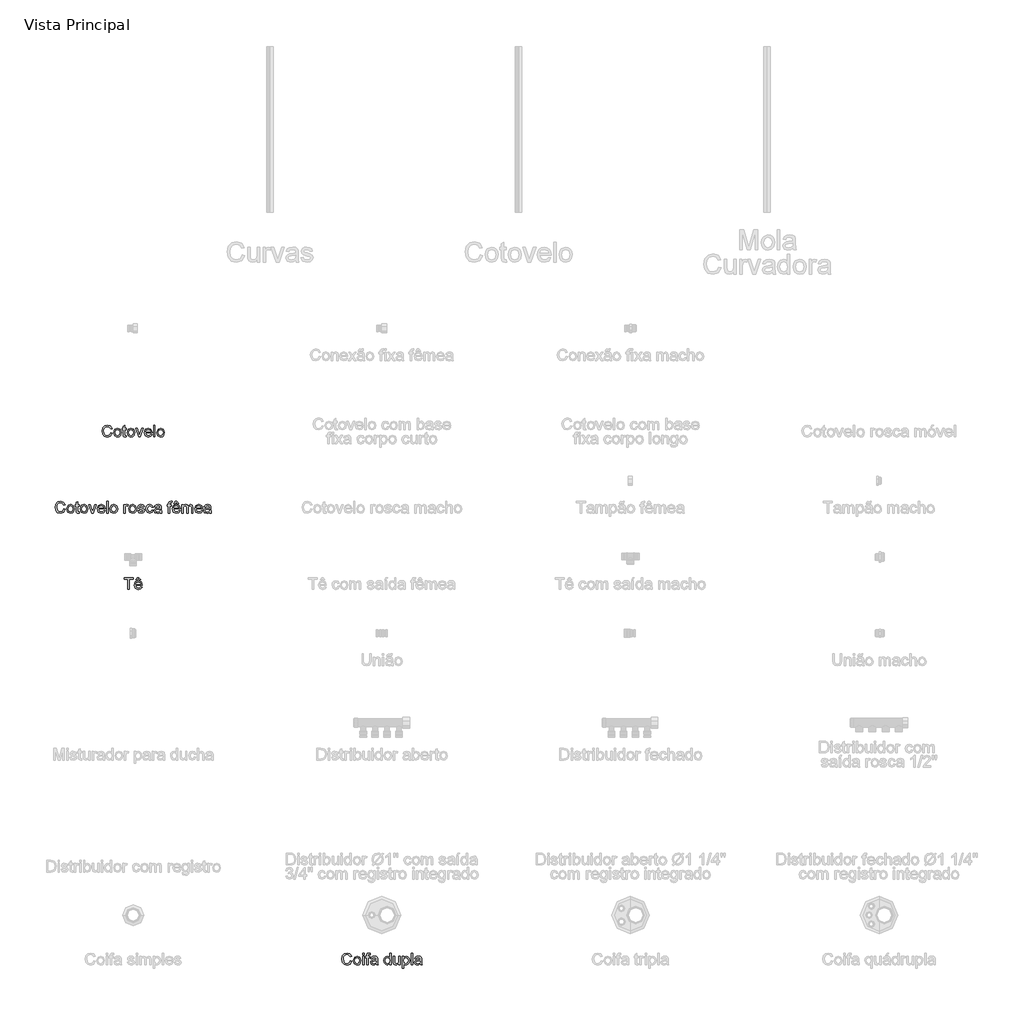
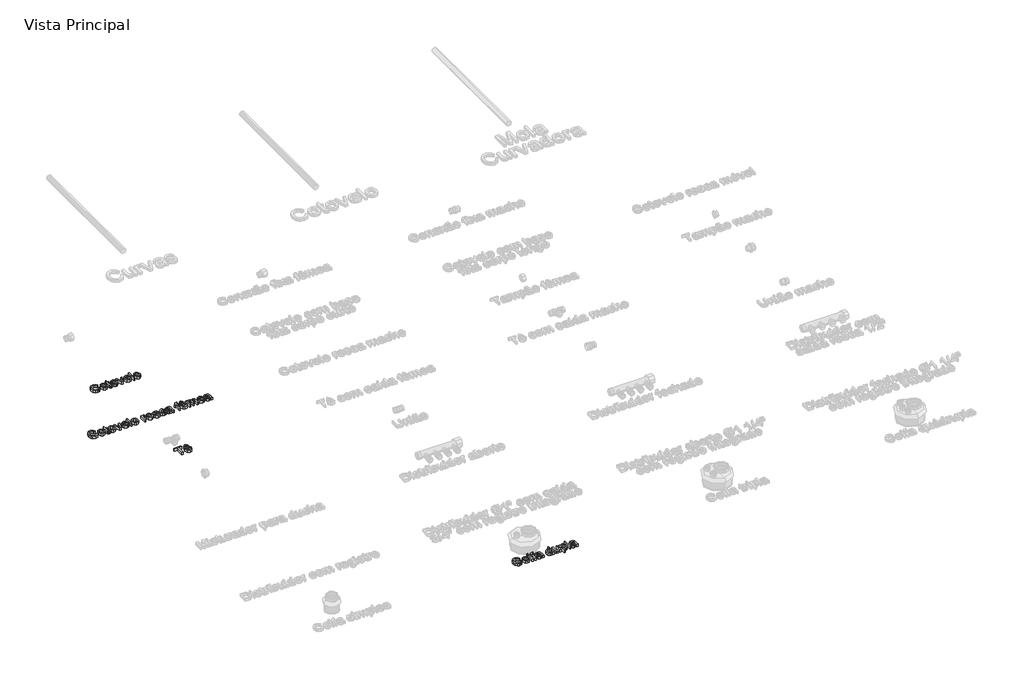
# One storey, part 4 of 12: 4 proxies.
"""IFC4 building model written with IfcOpenShell, lengths in millimetres."""

import ifcopenshell
import ifcopenshell.guid

model = None  # the IFC model being written
_history = None  # IfcOwnerHistory: only IFC2X3 demands one
_inside = {}  # id of a spatial element -> (the spatial element, [elements in it])
_under = {}  # id of a project, library or spatial element -> (it, [spatial elements below it])
_declared = {}  # id of a project -> (the project, [libraries it declares])
_typed = {}  # id of a type object -> (the type object, [elements of that type])
_made_of = {}  # id of a material, layer set ... -> (it, [elements and type objects made of it])


def new_model(schema):
    """Start an empty IFC model of exactly this schema.

    Asked for "IFC4X3", IfcOpenShell would pick the latest addendum, in which some entities
    have other attributes; the version numbers below select the first issue.
    IFC2X3 requires an IfcOwnerHistory on every rooted entity: one is made here for all.
    """
    global model, _history
    if schema == "IFC4X3":
        model = ifcopenshell.file(schema_version=(4, 3, 0, 0))
    else:
        model = ifcopenshell.file(schema=schema)
    _inside.clear()
    _under.clear()
    _declared.clear()
    _typed.clear()
    _made_of.clear()
    _history = None
    if model.schema == "IFC2X3":
        org = make("IfcOrganization", Name="unknown")
        user = make(
            "IfcPersonAndOrganization",
            ThePerson=make("IfcPerson", FamilyName="unknown"),
            TheOrganization=org,
        )
        app = make(
            "IfcApplication",
            ApplicationDeveloper=org,
            Version="unknown",
            ApplicationFullName="unknown",
            ApplicationIdentifier="unknown",
        )
        _history = make(
            "IfcOwnerHistory",
            OwningUser=user,
            OwningApplication=app,
            ChangeAction="ADDED",
            CreationDate=0,
        )
    return model


def make(cls, **values):
    """One entity of the class cls with the attributes given. An attribute that is None is left unset."""
    return model.create_entity(
        cls, **{name: value for name, value in values.items() if value is not None}
    )


def rooted(cls, **values):
    """An entity with a GlobalId (a new one), such as an element, a storey or a relation."""
    return make(cls, GlobalId=ifcopenshell.guid.new(), OwnerHistory=_history, **values)


def si_unit(unit_type, name, prefix=None):
    """IfcSIUnit, for example si_unit("LENGTHUNIT", "METRE", prefix="MILLI")."""
    return make("IfcSIUnit", UnitType=unit_type, Prefix=prefix, Name=name)


def assignment(units):
    """IfcUnitAssignment: the units of a project."""
    return None if units is None else make("IfcUnitAssignment", Units=units)


def point(xyz):
    """IfcCartesianPoint."""
    return None if xyz is None else make("IfcCartesianPoint", Coordinates=xyz)


def direction(xyz):
    """IfcDirection."""
    return None if xyz is None else make("IfcDirection", DirectionRatios=xyz)


def frame(location, z_axis=None, x_axis=None):
    """IfcAxis2Placement3D, a coordinate frame: its origin and axes. An axis left out is left unset."""
    return make(
        "IfcAxis2Placement3D",
        Location=point(location),
        Axis=direction(z_axis),
        RefDirection=direction(x_axis),
    )


def origin():
    """The frame at (0, 0, 0) with its axes left unset."""
    return frame((0.0, 0.0, 0.0))


def origin_with_axes():
    """The frame at (0, 0, 0) with the z axis (0, 0, 1) and the x axis (1, 0, 0) written out."""
    return frame((0.0, 0.0, 0.0), z_axis=(0.0, 0.0, 1.0), x_axis=(1.0, 0.0, 0.0))


def place(relative_to, where):
    """IfcLocalPlacement: puts the frame where relative to a parent placement (None: the world)."""
    return make(
        "IfcLocalPlacement", PlacementRelTo=relative_to, RelativePlacement=where
    )


def context(
    kind, dimensions, precision=None, world=None, true_north=None, identifier=None
):
    """IfcGeometricRepresentationContext, for example the 3D "Model" context."""
    return make(
        "IfcGeometricRepresentationContext",
        ContextIdentifier=identifier,
        ContextType=kind,
        CoordinateSpaceDimension=dimensions,
        Precision=precision,
        WorldCoordinateSystem=world,
        TrueNorth=true_north,
    )


def project(units=None, contexts=None):
    """IfcProject with its units and contexts."""
    return rooted(
        "IfcProject",
        Name="project",
        RepresentationContexts=contexts,
        UnitsInContext=assignment(units),
    )


def spatial(cls, under=None, at=None, **own):
    """A site, building, storey or space (cls), placed at a placement, below another one or the project."""
    s = rooted(cls, ObjectPlacement=at, **own)
    if under is not None:
        _under.setdefault(under.id(), (under, []))[1].append(s)
    return s


def polyline(points):
    """IfcPolyline through the points."""
    return make("IfcPolyline", Points=[point(p) for p in points])


def outline(outer, holes=None, kind="AREA"):
    """IfcArbitraryClosedProfileDef: a profile drawn as a closed curve; with holes, ...WithVoids."""
    if holes is None:
        return make("IfcArbitraryClosedProfileDef", ProfileType=kind, OuterCurve=outer)
    return make(
        "IfcArbitraryProfileDefWithVoids",
        ProfileType=kind,
        OuterCurve=outer,
        InnerCurves=holes,
    )


def extrude(swept, where, along, depth):
    """IfcExtrudedAreaSolid: the profile swept, set in the frame where, extruded along a direction by depth."""
    return make(
        "IfcExtrudedAreaSolid",
        SweptArea=swept,
        Position=where,
        ExtrudedDirection=direction(along),
        Depth=depth,
    )


def shape(context_of_items, identifier, shape_type, items):
    """IfcShapeRepresentation: the items that make up one representation, for example the "Body"."""
    return make(
        "IfcShapeRepresentation",
        ContextOfItems=context_of_items,
        RepresentationIdentifier=identifier,
        RepresentationType=shape_type,
        Items=items,
    )


def made_of(thing, what):
    """Note that an element or type object is made of a material, layer set ...; save() writes the relation."""
    if what is not None:
        _made_of.setdefault(what.id(), (what, []))[1].append(thing)
    return thing


def element(
    cls,
    number,
    at=None,
    inside=None,
    cuts=None,
    type_object=None,
    material=None,
    context=None,
    identifier="Body",
    shape_type=None,
    held_by="IfcProductDefinitionShape",
    body=None,
    shapes=None,
    **own,
):
    """One element of the class cls, such as IfcWall. Its Tag is "e" and its number.

    at: its placement. inside: the storey or other place that contains it. cuts: it is an
    opening in that element (IfcRelVoidsElement). A single representation is given by context,
    identifier, shape_type and body (its items); several are given by shapes. held_by: the class
    of the entity that holds the representations. save() writes the other relations.
    """
    e = rooted(cls, Tag="e%d" % number, ObjectPlacement=at, **own)
    if body is not None:
        shapes = [shape(context, identifier, shape_type, body)]
    if shapes is not None:
        e.Representation = make(held_by, Representations=shapes)
    if inside is not None:
        _inside.setdefault(inside.id(), (inside, []))[1].append(e)
    if cuts is not None:
        rooted(
            "IfcRelVoidsElement", RelatingBuildingElement=cuts, RelatedOpeningElement=e
        )
    if type_object is not None:
        _typed.setdefault(type_object.id(), (type_object, []))[1].append(e)
    return made_of(e, material)


def aggregate(whole, parts):
    """IfcRelAggregates: a whole, such as a stair, and the parts it consists of."""
    return rooted("IfcRelAggregates", RelatingObject=whole, RelatedObjects=parts)


def save(model, path):
    """Write the relations noted so far, then the file.

    IfcRelAggregates (storeys below a building ...), IfcRelContainedInSpatialStructure (elements
    in a storey), IfcRelDefinesByType, IfcRelAssociatesMaterial and IfcRelDeclares: one each for
    every whole, place, type object, material and project.
    """
    for whole, parts in _under.values():
        aggregate(whole, parts)
    for where, things in _inside.values():
        rooted(
            "IfcRelContainedInSpatialStructure",
            RelatedElements=things,
            RelatingStructure=where,
        )
    for kind, things in _typed.values():
        rooted("IfcRelDefinesByType", RelatedObjects=things, RelatingType=kind)
    for what, things in _made_of.values():
        rooted("IfcRelAssociatesMaterial", RelatedObjects=things, RelatingMaterial=what)
    for by, libraries in _declared.values():
        rooted("IfcRelDeclares", RelatingContext=by, RelatedDefinitions=libraries)
    model.write(path)


model = new_model("IFC4")

# Units and contexts
model_context = context("Model", 3, world=origin())
ifc_project = project(units=[si_unit("LENGTHUNIT", "METRE", prefix="MILLI")], contexts=[model_context])

# Site, building, storey
site = spatial("IfcSite", under=ifc_project)
building = spatial("IfcBuilding", under=site)
storey = spatial("IfcBuildingStorey", under=building, Name="Vista Principal", Elevation=0.0)

# Proxies
placement = place(None, origin())
element("IfcBuildingElementProxy", 1, Name="Legenda", ObjectType="Legenda", at=placement, inside=storey, context=model_context, shape_type="SweptSolid", body=[
    extrude(outline(polyline([(-1148.4354819, -244.518665), (-1144.0405183, -245.6517416), (-1149.2509536, -254.514632), (-1158.4529086, -257.5662131), (-1167.5990682, -255.2571405), (-1172.9640139, -248.5702721), (-1174.8052633, -239.1708871), (-1172.7236643, -229.6169917), (-1166.8050562, -223.4236983), (-1158.3584856, -221.3077637), (-1149.5556826, -224.046032), (-1144.5898888, -231.7543861), (-1148.9848523, -232.8016235), (-1152.5900959, -227.3980501), (-1158.5301638, -225.7027273), (-1165.4058783, -227.5826042), (-1169.2900991, -232.6299452), (-1170.4102997, -239.1623032), (-1169.0840851, -246.7333146), (-1164.9552229, -251.5703497), (-1158.8906882, -253.1712496), (-1152.1651922, -250.9909356), (-1148.4354819, -244.518665)])), origin_with_axes(), (0.0, 0.0, 1.0), 10.0),
    extrude(outline(polyline([(-1139.6455548, -244.1066372), (-1135.8428812, -233.5055044), (-1128.1001915, -230.6470613), (-1119.7952554, -234.1278381), (-1116.571996, -243.7461128), (-1117.9969256, -251.5660578), (-1122.1472477, -255.9910651), (-1128.1001915, -257.5662131), (-1136.456631, -254.0983122), (-1139.6455548, -244.1066372)]), holes=[polyline([(-1135.2505912, -244.0980533), (-1133.2162038, -250.9093884), (-1128.1001915, -253.1712496), (-1123.001347, -250.8965126), (-1120.9669596, -243.9607107), (-1123.0142229, -237.303886), (-1128.1001915, -235.0420248), (-1133.2162038, -237.2953021), (-1135.2505912, -244.0980533)])]), origin_with_axes(), (0.0, 0.0, 1.0), 10.0),
    extrude(outline(polyline([(-1102.2883644, -253.3515117), (-1101.738994, -257.1456014), (-1105.0266327, -257.5662131), (-1108.7091315, -256.8365805), (-1110.5460889, -254.9223679), (-1111.0782916, -249.9351143), (-1111.0782916, -235.5913953), (-1114.3745142, -235.5913953), (-1114.3745142, -231.1964317), (-1111.0782916, -231.1964317), (-1111.0782916, -224.9215911), (-1106.683328, -222.3378333), (-1106.683328, -231.1964317), (-1102.2883644, -231.1964317), (-1102.2883644, -235.5913953), (-1106.683328, -235.5913953), (-1106.683328, -249.8063556), (-1106.4515623, -252.0725087), (-1102.2883644, -253.3515117)])), origin_with_axes(), (0.0, 0.0, 1.0), 10.0),
    extrude(outline(polyline([(-1098.9921417, -244.1066372), (-1095.1894682, -233.5055044), (-1087.4467785, -230.6470613), (-1079.1418424, -234.1278381), (-1075.918583, -243.7461128), (-1077.3435126, -251.5660578), (-1081.4938346, -255.9910651), (-1087.4467785, -257.5662131), (-1095.803218, -254.0983122), (-1098.9921417, -244.1066372)]), holes=[polyline([(-1094.5971782, -244.0980533), (-1092.5627907, -250.9093884), (-1087.4467785, -253.1712496), (-1082.347934, -250.8965126), (-1080.3135466, -243.9607107), (-1082.3608099, -237.303886), (-1087.4467785, -235.0420248), (-1092.5627907, -237.2953021), (-1094.5971782, -244.0980533)])]), origin_with_axes(), (0.0, 0.0, 1.0), 10.0),
    extrude(outline(polyline([(-1064.639321, -257.0168427), (-1073.7211012, -231.1964317), (-1069.0686203, -231.1964317), (-1063.5663319, -246.6646433), (-1061.9096366, -251.8664947), (-1060.287277, -246.9564964), (-1054.750653, -231.1964317), (-1050.098172, -231.1964317), (-1059.0683613, -257.0168427), (-1064.639321, -257.0168427)])), origin_with_axes(), (0.0, 0.0, 1.0), 10.0),
    extrude(outline(polyline([(-1028.1748577, -249.3256564), (-1023.8657332, -249.8750269), (-1027.8958805, -255.5489935), (-1035.4025126, -257.5662131), (-1044.5272124, -254.0854363), (-1047.9006902, -244.321235), (-1044.4928767, -234.235137), (-1035.6514461, -230.6470613), (-1027.0632409, -234.2265531), (-1023.7283906, -244.2954833), (-1043.5057267, -245.4800633), (-1040.9777642, -251.1883656), (-1035.3166735, -253.1712496), (-1031.007549, -252.2527708), (-1028.1748577, -249.3256564)]), holes=[polyline([(-1043.5057267, -241.0850997), (-1028.1233542, -241.0850997), (-1029.8830564, -237.102164), (-1035.6686139, -235.0420248), (-1041.0807712, -236.6858442), (-1043.5057267, -241.0850997)])]), origin_with_axes(), (0.0, 0.0, 1.0), 10.0),
    extrude(outline(polyline([(-1019.3334271, -257.0168427), (-1019.3334271, -221.8571341), (-1014.9384635, -221.8571341), (-1014.9384635, -257.0168427), (-1019.3334271, -257.0168427)])), origin_with_axes(), (0.0, 0.0, 1.0), 10.0),
    extrude(outline(polyline([(-1009.444759, -244.1066372), (-1005.6420855, -233.5055044), (-997.8993957, -230.6470613), (-989.5944597, -234.1278381), (-986.3712003, -243.7461128), (-987.7961299, -251.5660578), (-991.9464519, -255.9910651), (-997.8993957, -257.5662131), (-1006.2558353, -254.0983122), (-1009.444759, -244.1066372)]), holes=[polyline([(-1005.0497955, -244.0980533), (-1003.015408, -250.9093884), (-997.8993957, -253.1712496), (-992.8005513, -250.8965126), (-990.7661639, -243.9607107), (-992.8134272, -237.303886), (-997.8993957, -235.0420248), (-1003.015408, -237.2953021), (-1005.0497955, -244.0980533)])]), origin_with_axes(), (0.0, 0.0, 1.0), 10.0),
])
element("IfcBuildingElementProxy", 2, Name="Legenda", ObjectType="Legenda", at=placement, inside=storey, context=model_context, shape_type="SweptSolid", body=[
    extrude(outline(polyline([(-1289.8983718, -474.518665), (-1285.5034082, -475.6517416), (-1290.7138435, -484.514632), (-1299.9157985, -487.5662131), (-1309.061958, -485.2571405), (-1314.4269038, -478.5702721), (-1316.2681532, -469.1708871), (-1314.1865542, -459.6169917), (-1308.2679461, -453.4236983), (-1299.8213755, -451.3077637), (-1291.0185724, -454.046032), (-1286.0527786, -461.7543861), (-1290.4477422, -462.8016235), (-1294.0529858, -457.3980501), (-1299.9930537, -455.7027273), (-1306.8687682, -457.5826042), (-1310.7529889, -462.6299452), (-1311.8731896, -469.1623032), (-1310.546975, -476.7333146), (-1306.4181128, -481.5703497), (-1300.3535781, -483.1712496), (-1293.6280821, -480.9909356), (-1289.8983718, -474.518665)])), origin_with_axes(), (0.0, 0.0, 1.0), 10.0),
    extrude(outline(polyline([(-1281.1084446, -474.1066372), (-1277.3057711, -463.5055044), (-1269.5630813, -460.6470613), (-1261.2581453, -464.1278381), (-1258.0348859, -473.7461128), (-1259.4598155, -481.5660578), (-1263.6101375, -485.9910651), (-1269.5630813, -487.5662131), (-1277.9195209, -484.0983122), (-1281.1084446, -474.1066372)]), holes=[polyline([(-1276.7134811, -474.0980533), (-1274.6790936, -480.9093884), (-1269.5630813, -483.1712496), (-1264.4642369, -480.8965126), (-1262.4298495, -473.9607107), (-1264.4771128, -467.303886), (-1269.5630813, -465.0420248), (-1274.6790936, -467.2953021), (-1276.7134811, -474.0980533)])]), origin_with_axes(), (0.0, 0.0, 1.0), 10.0),
    extrude(outline(polyline([(-1243.7512543, -483.3515117), (-1243.2018838, -487.1456014), (-1246.4895226, -487.5662131), (-1250.1720214, -486.8365805), (-1252.0089788, -484.9223679), (-1252.5411814, -479.9351143), (-1252.5411814, -465.5913953), (-1255.8374041, -465.5913953), (-1255.8374041, -461.1964317), (-1252.5411814, -461.1964317), (-1252.5411814, -454.9215911), (-1248.1462179, -452.3378333), (-1248.1462179, -461.1964317), (-1243.7512543, -461.1964317), (-1243.7512543, -465.5913953), (-1248.1462179, -465.5913953), (-1248.1462179, -479.8063556), (-1247.9144522, -482.0725087), (-1243.7512543, -483.3515117)])), origin_with_axes(), (0.0, 0.0, 1.0), 10.0),
    extrude(outline(polyline([(-1240.4550316, -474.1066372), (-1236.6523581, -463.5055044), (-1228.9096683, -460.6470613), (-1220.6047323, -464.1278381), (-1217.3814729, -473.7461128), (-1218.8064025, -481.5660578), (-1222.9567245, -485.9910651), (-1228.9096683, -487.5662131), (-1237.2661079, -484.0983122), (-1240.4550316, -474.1066372)]), holes=[polyline([(-1236.060068, -474.0980533), (-1234.0256806, -480.9093884), (-1228.9096683, -483.1712496), (-1223.8108239, -480.8965126), (-1221.7764364, -473.9607107), (-1223.8236998, -467.303886), (-1228.9096683, -465.0420248), (-1234.0256806, -467.2953021), (-1236.060068, -474.0980533)])]), origin_with_axes(), (0.0, 0.0, 1.0), 10.0),
    extrude(outline(polyline([(-1206.1022109, -487.0168427), (-1215.1839911, -461.1964317), (-1210.5315101, -461.1964317), (-1205.0292218, -476.6646433), (-1203.3725265, -481.8664947), (-1201.7501669, -476.9564964), (-1196.2135429, -461.1964317), (-1191.5610619, -461.1964317), (-1200.5312512, -487.0168427), (-1206.1022109, -487.0168427)])), origin_with_axes(), (0.0, 0.0, 1.0), 10.0),
    extrude(outline(polyline([(-1169.6377475, -479.3256564), (-1165.3286231, -479.8750269), (-1169.3587704, -485.5489935), (-1176.8654025, -487.5662131), (-1185.9901022, -484.0854363), (-1189.3635801, -474.321235), (-1185.9557666, -464.235137), (-1177.114336, -460.6470613), (-1168.5261308, -464.2265531), (-1165.1912805, -474.2954833), (-1184.9686166, -475.4800633), (-1182.4406541, -481.1883656), (-1176.7795633, -483.1712496), (-1172.4704389, -482.2527708), (-1169.6377475, -479.3256564)]), holes=[polyline([(-1184.9686166, -471.0850997), (-1169.5862441, -471.0850997), (-1171.3459463, -467.102164), (-1177.1315038, -465.0420248), (-1182.5436611, -466.6858442), (-1184.9686166, -471.0850997)])]), origin_with_axes(), (0.0, 0.0, 1.0), 10.0),
    extrude(outline(polyline([(-1160.7963169, -487.0168427), (-1160.7963169, -451.8571341), (-1156.4013534, -451.8571341), (-1156.4013534, -487.0168427), (-1160.7963169, -487.0168427)])), origin_with_axes(), (0.0, 0.0, 1.0), 10.0),
    extrude(outline(polyline([(-1150.9076489, -474.1066372), (-1147.1049753, -463.5055044), (-1139.3622856, -460.6470613), (-1131.0573496, -464.1278381), (-1127.8340902, -473.7461128), (-1129.2590198, -481.5660578), (-1133.4093418, -485.9910651), (-1139.3622856, -487.5662131), (-1147.7187251, -484.0983122), (-1150.9076489, -474.1066372)]), holes=[polyline([(-1146.5126853, -474.0980533), (-1144.4782979, -480.9093884), (-1139.3622856, -483.1712496), (-1134.2634412, -480.8965126), (-1132.2290537, -473.9607107), (-1134.276317, -467.303886), (-1139.3622856, -465.0420248), (-1144.4782979, -467.2953021), (-1146.5126853, -474.0980533)])]), origin_with_axes(), (0.0, 0.0, 1.0), 10.0),
    extrude(outline(polyline([(-1109.155495, -487.0168427), (-1109.155495, -461.1964317), (-1105.3099019, -461.1964317), (-1105.3099019, -465.0162731), (-1102.5802175, -461.4968687), (-1099.8333652, -460.6470613), (-1095.4212338, -462.0033196), (-1096.889083, -465.9433357), (-1099.9792918, -465.0420248), (-1102.4643346, -465.9090001), (-1104.0480666, -468.3124958), (-1104.7605314, -473.4456759), (-1104.7605314, -487.0168427), (-1109.155495, -487.0168427)])), origin_with_axes(), (0.0, 0.0, 1.0), 10.0),
    extrude(outline(polyline([(-1093.7731225, -474.1066372), (-1089.9704489, -463.5055044), (-1082.2277592, -460.6470613), (-1073.9228232, -464.1278381), (-1070.6995638, -473.7461128), (-1072.1244934, -481.5660578), (-1076.2748154, -485.9910651), (-1082.2277592, -487.5662131), (-1090.5841987, -484.0983122), (-1093.7731225, -474.1066372)]), holes=[polyline([(-1089.3781589, -474.0980533), (-1087.3437715, -480.9093884), (-1082.2277592, -483.1712496), (-1077.1289148, -480.8965126), (-1075.0945273, -473.9607107), (-1077.1417906, -467.303886), (-1082.2277592, -465.0420248), (-1087.3437715, -467.2953021), (-1089.3781589, -474.0980533)])]), origin_with_axes(), (0.0, 0.0, 1.0), 10.0),
    extrude(outline(polyline([(-1067.4033411, -479.3256564), (-1063.0083775, -478.776286), (-1060.9739901, -482.038173), (-1056.3129252, -483.1712496), (-1051.8321225, -482.1325961), (-1050.3728573, -479.6947647), (-1051.8407064, -477.7204647), (-1056.3644287, -476.4672133), (-1062.9826258, -474.3169431), (-1065.8711126, -471.8061485), (-1066.8539706, -468.2609923), (-1066.0642506, -464.9862294), (-1063.9096884, -462.4840187), (-1061.1156247, -461.1835558), (-1057.3344109, -460.6470613), (-1051.9866329, -461.5097445), (-1048.5874033, -463.8445689), (-1047.0766346, -467.7888771), (-1051.4715981, -468.3382475), (-1053.1240014, -465.913292), (-1056.9910543, -465.0420248), (-1061.1971718, -465.8746644), (-1062.4590071, -467.8146288), (-1060.2958609, -470.0636141), (-1056.5103552, -470.9992606), (-1050.0595444, -473.0679837), (-1047.0637587, -475.411392), (-1045.9778937, -479.2312334), (-1047.2526048, -483.4373509), (-1050.9308116, -486.488932), (-1056.3730126, -487.5662131), (-1064.0384471, -485.4889061), (-1067.4033411, -479.3256564)])), origin_with_axes(), (0.0, 0.0, 1.0), 10.0),
    extrude(outline(polyline([(-1024.5524463, -477.6775451), (-1020.1574827, -478.2269155), (-1023.6854711, -485.0897542), (-1030.6556086, -487.5662131), (-1038.9862964, -484.1111881), (-1042.1323006, -474.2010602), (-1040.7889181, -466.900442), (-1036.6943915, -462.2093335), (-1030.715696, -460.6470613), (-1024.0331195, -462.7930396), (-1020.7068532, -468.887618), (-1025.1018167, -469.4369884), (-1027.1404961, -466.1450577), (-1030.6813603, -465.0420248), (-1035.7759128, -467.2137549), (-1037.737337, -474.0808855), (-1035.8188324, -481.0123954), (-1030.8015351, -483.1712496), (-1026.659797, -481.8235752), (-1024.5524463, -477.6775451)])), origin_with_axes(), (0.0, 0.0, 1.0), 10.0),
    extrude(outline(polyline([(-999.8307762, -483.72062), (-1004.0926891, -486.6992379), (-1008.8009655, -487.5662131), (-1015.183105, -485.4803222), (-1017.4106305, -480.1497121), (-1016.569407, -476.6732273), (-1014.3590493, -474.1495568), (-1011.2817164, -472.7074593), (-1007.4790429, -472.046498), (-999.856528, -470.5357293), (-1001.041108, -466.312444), (-1005.8996029, -465.0420248), (-1010.3460699, -465.8875403), (-1012.4662965, -468.887618), (-1016.86126, -468.3382475), (-1014.9599233, -464.0462909), (-1011.131498, -461.5312043), (-1005.3330646, -460.6470613), (-1000.0067464, -461.4281974), (-996.9980848, -463.3896215), (-995.6504105, -466.3725314), (-995.4358126, -470.2181245), (-995.4358126, -475.6860772), (-995.2126309, -483.321468), (-994.3370718, -487.0168427), (-998.7320353, -487.0168427), (-999.8307762, -483.72062)]), holes=[polyline([(-999.8436521, -475.5530266), (-1006.9210885, -476.2783672), (-1010.7023023, -476.990832), (-1012.414793, -478.1496603), (-1013.0156669, -479.8406912), (-1011.7066202, -482.2184352), (-1007.865319, -483.1712496), (-1003.4188519, -482.1197202), (-1000.5518249, -479.5745899), (-999.8436521, -475.5530266)])]), origin_with_axes(), (0.0, 0.0, 1.0), 10.0),
    extrude(outline(polyline([(-974.5597357, -487.0168427), (-974.5597357, -465.5913953), (-978.4053288, -465.5913953), (-978.4053288, -461.1964317), (-974.5597357, -461.1964317), (-974.5597357, -458.595506), (-974.0962044, -454.9301751), (-971.8472191, -452.3120815), (-967.4179199, -451.3077637), (-963.4092324, -451.7884628), (-964.0530259, -455.9087412), (-966.5852803, -455.7027273), (-969.3535923, -456.4323599), (-970.1647721, -459.1534604), (-970.1647721, -461.1964317), (-965.2204381, -461.1964317), (-965.2204381, -465.5913953), (-970.1647721, -465.5913953), (-970.1647721, -487.0168427), (-974.5597357, -487.0168427)])), origin_with_axes(), (0.0, 0.0, 1.0), 10.0),
    extrude(outline(polyline([(-943.2971237, -479.3256564), (-938.9879993, -479.8750269), (-943.0181466, -485.5489935), (-950.5247787, -487.5662131), (-959.6494784, -484.0854363), (-963.0229563, -474.321235), (-959.6151428, -464.235137), (-950.7737122, -460.6470613), (-942.185507, -464.2265531), (-938.8506567, -474.2954833), (-958.6279928, -475.4800633), (-956.1000303, -481.1883656), (-950.4389395, -483.1712496), (-946.1298151, -482.2527708), (-943.2971237, -479.3256564)]), holes=[polyline([(-958.6279928, -471.0850997), (-943.2456203, -471.0850997), (-945.0053225, -467.102164), (-950.79088, -465.0420248), (-956.2030373, -466.6858442), (-958.6279928, -471.0850997)])]), origin_with_axes(), (0.0, 0.0, 1.0), 10.0),
    extrude(outline(polyline([(-950.9368065, -454.0546159), (-953.4089735, -458.4495795), (-957.8039371, -458.4495795), (-953.1342883, -451.8571341), (-948.7393247, -451.8571341), (-943.5203055, -458.4495795), (-947.9152691, -458.4495795), (-950.9368065, -454.0546159)])), origin_with_axes(), (0.0, 0.0, 1.0), 10.0),
    extrude(outline(polyline([(-934.4556931, -487.0168427), (-934.4556931, -461.1964317), (-930.0607296, -461.1964317), (-930.0607296, -465.4454688), (-927.0391921, -461.9646919), (-922.7386516, -460.6470613), (-918.3351041, -461.9904437), (-915.9144406, -465.7544896), (-908.154583, -460.6470613), (-902.4076531, -462.7715798), (-900.3947255, -469.3168136), (-900.3947255, -487.0168427), (-904.789689, -487.0168427), (-904.789689, -471.2052745), (-905.1974249, -467.5356516), (-906.673858, -465.7287379), (-909.1846526, -465.0420248), (-913.5066529, -466.801727), (-915.2277275, -472.441358), (-915.2277275, -487.0168427), (-919.6226911, -487.0168427), (-919.6226911, -470.7159915), (-920.6398848, -466.4583705), (-923.9747351, -465.0420248), (-927.2280382, -465.9862553), (-929.3911843, -468.7502753), (-930.0607296, -473.9950463), (-930.0607296, -487.0168427), (-934.4556931, -487.0168427)])), origin_with_axes(), (0.0, 0.0, 1.0), 10.0),
    extrude(outline(polyline([(-875.7245589, -479.3256564), (-871.4154344, -479.8750269), (-875.4455817, -485.5489935), (-882.9522138, -487.5662131), (-892.0769136, -484.0854363), (-895.4503914, -474.321235), (-892.0425779, -464.235137), (-883.2011473, -460.6470613), (-874.6129421, -464.2265531), (-871.2780918, -474.2954833), (-891.0554279, -475.4800633), (-888.5274654, -481.1883656), (-882.8663747, -483.1712496), (-878.5572502, -482.2527708), (-875.7245589, -479.3256564)]), holes=[polyline([(-891.0554279, -471.0850997), (-875.6730554, -471.0850997), (-877.4327576, -467.102164), (-883.2183151, -465.0420248), (-888.6304724, -466.6858442), (-891.0554279, -471.0850997)])]), origin_with_axes(), (0.0, 0.0, 1.0), 10.0),
    extrude(outline(polyline([(-850.4020149, -483.72062), (-854.6639278, -486.6992379), (-859.3722042, -487.5662131), (-865.7543437, -485.4803222), (-867.9818691, -480.1497121), (-867.1406456, -476.6732273), (-864.930288, -474.1495568), (-861.8529551, -472.7074593), (-858.0502815, -472.046498), (-850.4277666, -470.5357293), (-851.6123466, -466.312444), (-856.4708415, -465.0420248), (-860.9173086, -465.8875403), (-863.0375351, -468.887618), (-867.4324987, -468.3382475), (-865.5311619, -464.0462909), (-861.7027366, -461.5312043), (-855.9043032, -460.6470613), (-850.5779851, -461.4281974), (-847.5693235, -463.3896215), (-846.2216491, -466.3725314), (-846.0070513, -470.2181245), (-846.0070513, -475.6860772), (-845.7838696, -483.321468), (-844.9083104, -487.0168427), (-849.303274, -487.0168427), (-850.4020149, -483.72062)]), holes=[polyline([(-850.4148907, -475.5530266), (-857.4923272, -476.2783672), (-861.273541, -476.990832), (-862.9860316, -478.1496603), (-863.5869056, -479.8406912), (-862.2778588, -482.2184352), (-858.4365576, -483.1712496), (-853.9900906, -482.1197202), (-851.1230636, -479.5745899), (-850.4148907, -475.5530266)])]), origin_with_axes(), (0.0, 0.0, 1.0), 10.0),
])
element("IfcBuildingElementProxy", 3, Name="Legenda", ObjectType="Legenda", at=placement, inside=storey, context=model_context, shape_type="SweptSolid", body=[
    extrude(outline(polyline([(-1096.5199747, -717.0168427), (-1096.5199747, -686.2520977), (-1108.0567541, -686.2520977), (-1108.0567541, -681.8571341), (-1080.5882318, -681.8571341), (-1080.5882318, -686.2520977), (-1092.1250112, -686.2520977), (-1092.1250112, -717.0168427), (-1096.5199747, -717.0168427)])), origin_with_axes(), (0.0, 0.0, 1.0), 10.0),
    extrude(outline(polyline([(-1065.7552297, -684.0546159), (-1068.2273968, -688.4495795), (-1072.6223603, -688.4495795), (-1067.9527115, -681.8571341), (-1063.557748, -681.8571341), (-1058.3387287, -688.4495795), (-1062.7336923, -688.4495795), (-1065.7552297, -684.0546159)])), origin_with_axes(), (0.0, 0.0, 1.0), 10.0),
    extrude(outline(polyline([(-1058.115547, -709.3256564), (-1053.8064225, -709.8750269), (-1057.8365698, -715.5489935), (-1065.3432019, -717.5662131), (-1074.4679017, -714.0854363), (-1077.8413796, -704.321235), (-1074.433566, -694.235137), (-1065.5921354, -690.6470613), (-1057.0039302, -694.2265531), (-1053.6690799, -704.2954833), (-1073.446416, -705.4800633), (-1070.9184536, -711.1883656), (-1065.2573628, -713.1712496), (-1060.9482383, -712.2527708), (-1058.115547, -709.3256564)]), holes=[polyline([(-1073.446416, -701.0850997), (-1058.0640435, -701.0850997), (-1059.8237457, -697.102164), (-1065.6093032, -695.0420248), (-1071.0214605, -696.6858442), (-1073.446416, -701.0850997)])]), origin_with_axes(), (0.0, 0.0, 1.0), 10.0),
])
element("IfcBuildingElementProxy", 4, Name="Legenda", ObjectType="Legenda", at=placement, inside=storey, context=model_context, shape_type="SweptSolid", body=[
    extrude(outline(polyline([(-425.629319, -1837.168665), (-421.2343554, -1838.3017416), (-426.4447907, -1847.164632), (-435.6467457, -1850.2162131), (-444.7929052, -1847.9071405), (-450.157851, -1841.2202721), (-451.9991004, -1831.8208871), (-449.9175014, -1822.2669917), (-443.9988933, -1816.0736983), (-435.5523227, -1813.9577637), (-426.7495196, -1816.696032), (-421.7837259, -1824.4043861), (-426.1786894, -1825.4516235), (-429.783933, -1820.0480501), (-435.7240009, -1818.3527273), (-442.5997154, -1820.2326042), (-446.4839361, -1825.2799452), (-447.6041368, -1831.8123032), (-446.2779222, -1839.3833146), (-442.14906, -1844.2203497), (-436.0845253, -1845.8212496), (-429.3590293, -1843.6409356), (-425.629319, -1837.168665)])), origin_with_axes(), (0.0, 0.0, 1.0), 10.0),
    extrude(outline(polyline([(-416.8393918, -1836.7566372), (-413.0367183, -1826.1555044), (-405.2940286, -1823.2970613), (-396.9890925, -1826.7778381), (-393.7658331, -1836.3961128), (-395.1907627, -1844.2160578), (-399.3410847, -1848.6410651), (-405.2940286, -1850.2162131), (-413.6504681, -1846.7483122), (-416.8393918, -1836.7566372)]), holes=[polyline([(-412.4444283, -1836.7480533), (-410.4100408, -1843.5593884), (-405.2940286, -1845.8212496), (-400.1951841, -1843.5465126), (-398.1607967, -1836.6107107), (-400.20806, -1829.953886), (-405.2940286, -1827.6920248), (-410.4100408, -1829.9453021), (-412.4444283, -1836.7480533)])]), origin_with_axes(), (0.0, 0.0, 1.0), 10.0),
    extrude(outline(polyline([(-388.8214991, -1849.6668427), (-388.8214991, -1823.8464317), (-384.4265355, -1823.8464317), (-384.4265355, -1849.6668427), (-388.8214991, -1849.6668427)])), origin_with_axes(), (0.0, 0.0, 1.0), 10.0),
    extrude(outline(polyline([(-388.8214991, -1818.9020977), (-388.8214991, -1814.5071341), (-384.4265355, -1814.5071341), (-384.4265355, -1818.9020977), (-388.8214991, -1818.9020977)])), origin_with_axes(), (0.0, 0.0, 1.0), 10.0),
    extrude(outline(polyline([(-376.7353493, -1849.6668427), (-376.7353493, -1828.2413953), (-380.5809424, -1828.2413953), (-380.5809424, -1823.8464317), (-376.7353493, -1823.8464317), (-376.7353493, -1821.245506), (-376.271818, -1817.5801751), (-374.0228327, -1814.9620815), (-369.5935335, -1813.9577637), (-365.584846, -1814.4384628), (-366.2286395, -1818.5587412), (-368.7608939, -1818.3527273), (-371.5292059, -1819.0823599), (-372.3403857, -1821.8034604), (-372.3403857, -1823.8464317), (-367.3960517, -1823.8464317), (-367.3960517, -1828.2413953), (-372.3403857, -1828.2413953), (-372.3403857, -1849.6668427), (-376.7353493, -1849.6668427)])), origin_with_axes(), (0.0, 0.0, 1.0), 10.0),
    extrude(outline(polyline([(-347.0693452, -1846.37062), (-351.3312581, -1849.3492379), (-356.0395345, -1850.2162131), (-362.421674, -1848.1303222), (-364.6491995, -1842.7997121), (-363.807976, -1839.3232273), (-361.5976183, -1836.7995568), (-358.5202854, -1835.3574593), (-354.7176119, -1834.696498), (-347.0950969, -1833.1857293), (-348.2796769, -1828.962444), (-353.1381718, -1827.6920248), (-357.5846389, -1828.5375403), (-359.7048654, -1831.537618), (-364.099829, -1830.9882475), (-362.1984922, -1826.6962909), (-358.3700669, -1824.1812043), (-352.5716336, -1823.2970613), (-347.2453154, -1824.0781974), (-344.2366538, -1826.0396215), (-342.8889794, -1829.0225314), (-342.6743816, -1832.8681245), (-342.6743816, -1838.3360772), (-342.4511999, -1845.971468), (-341.5756407, -1849.6668427), (-345.9706043, -1849.6668427), (-347.0693452, -1846.37062)]), holes=[polyline([(-347.082221, -1838.2030266), (-354.1596575, -1838.9283672), (-357.9408713, -1839.640832), (-359.653362, -1840.7996603), (-360.2542359, -1842.4906912), (-358.9451891, -1844.8684352), (-355.103888, -1845.8212496), (-350.6574209, -1844.7697202), (-347.7903939, -1842.2245899), (-347.082221, -1838.2030266)])]), origin_with_axes(), (0.0, 0.0, 1.0), 10.0),
    extrude(outline(polyline([(-306.9653026, -1849.6668427), (-306.9653026, -1845.5208126), (-313.8925206, -1850.2162131), (-319.3347216, -1848.5165983), (-323.1803147, -1843.7739863), (-324.5451569, -1836.7823889), (-323.2876136, -1829.7864997), (-319.5192757, -1824.9709243), (-313.9096884, -1823.2970613), (-309.8580814, -1824.4945172), (-306.9653026, -1827.6061857), (-306.9653026, -1814.5071341), (-302.570339, -1814.5071341), (-302.570339, -1849.6668427), (-306.9653026, -1849.6668427)]), holes=[polyline([(-320.1501933, -1836.7652211), (-318.1673094, -1843.5679723), (-313.4890767, -1845.8212496), (-308.8666394, -1843.6709793), (-306.9653026, -1837.0999937), (-308.900975, -1829.9667618), (-313.6693388, -1827.6920248), (-318.2960681, -1829.8766308), (-320.1501933, -1836.7652211)])]), origin_with_axes(), (0.0, 0.0, 1.0), 10.0),
    extrude(outline(polyline([(-279.4967803, -1849.6668427), (-279.4967803, -1845.2289595), (-287.4283161, -1850.2162131), (-291.5614703, -1849.340654), (-294.4113295, -1847.1431722), (-295.7203763, -1843.9070369), (-295.9778937, -1839.8210942), (-295.9778937, -1823.8464317), (-291.5829301, -1823.8464317), (-291.5829301, -1837.7523711), (-291.3168288, -1842.2331738), (-289.5785864, -1844.8641432), (-286.3038235, -1845.8212496), (-282.6342006, -1844.8426835), (-280.2092451, -1842.1773784), (-279.4967803, -1837.2802559), (-279.4967803, -1823.8464317), (-275.1018167, -1823.8464317), (-275.1018167, -1849.6668427), (-279.4967803, -1849.6668427)])), origin_with_axes(), (0.0, 0.0, 1.0), 10.0),
    extrude(outline(polyline([(-269.0587418, -1859.5555107), (-269.0587418, -1823.8464317), (-264.6637783, -1823.8464317), (-264.6637783, -1828.1555562), (-261.625073, -1824.511685), (-257.5219625, -1823.2970613), (-251.9510028, -1824.9966761), (-248.3114236, -1829.7864997), (-247.083924, -1836.5592072), (-248.470226, -1843.6795632), (-252.4960813, -1848.5294742), (-258.0541651, -1850.2162131), (-261.8782984, -1849.0874285), (-264.6637783, -1846.2332774), (-264.6637783, -1859.5555107), (-269.0587418, -1859.5555107)]), holes=[polyline([(-264.6637783, -1836.9626511), (-262.7624415, -1843.6581034), (-258.1485881, -1845.8212496), (-253.4403117, -1843.5808482), (-251.4788876, -1836.6364624), (-253.3931002, -1829.9238423), (-257.9683259, -1827.6920248), (-262.6336828, -1830.0654768), (-264.6637783, -1836.9626511)])]), origin_with_axes(), (0.0, 0.0, 1.0), 10.0),
    extrude(outline(polyline([(-242.13959, -1849.6668427), (-242.13959, -1814.5071341), (-237.7446264, -1814.5071341), (-237.7446264, -1849.6668427), (-242.13959, -1849.6668427)])), origin_with_axes(), (0.0, 0.0, 1.0), 10.0),
    extrude(outline(polyline([(-214.6710677, -1846.37062), (-218.9329806, -1849.3492379), (-223.641257, -1850.2162131), (-230.0233965, -1848.1303222), (-232.2509219, -1842.7997121), (-231.4096984, -1839.3232273), (-229.1993408, -1836.7995568), (-226.1220079, -1835.3574593), (-222.3193343, -1834.696498), (-214.6968194, -1833.1857293), (-215.8813994, -1828.962444), (-220.7398943, -1827.6920248), (-225.1863614, -1828.5375403), (-227.3065879, -1831.537618), (-231.7015515, -1830.9882475), (-229.8002147, -1826.6962909), (-225.9717894, -1824.1812043), (-220.173356, -1823.2970613), (-214.8470379, -1824.0781974), (-211.8383763, -1826.0396215), (-210.4907019, -1829.0225314), (-210.2761041, -1832.8681245), (-210.2761041, -1838.3360772), (-210.0529223, -1845.971468), (-209.1773632, -1849.6668427), (-213.5723268, -1849.6668427), (-214.6710677, -1846.37062)]), holes=[polyline([(-214.6839435, -1838.2030266), (-221.76138, -1838.9283672), (-225.5425938, -1839.640832), (-227.2550844, -1840.7996603), (-227.8559584, -1842.4906912), (-226.5469116, -1844.8684352), (-222.7056104, -1845.8212496), (-218.2591434, -1844.7697202), (-215.3921164, -1842.2245899), (-214.6839435, -1838.2030266)])]), origin_with_axes(), (0.0, 0.0, 1.0), 10.0),
])

save(model, "model.ifc")
